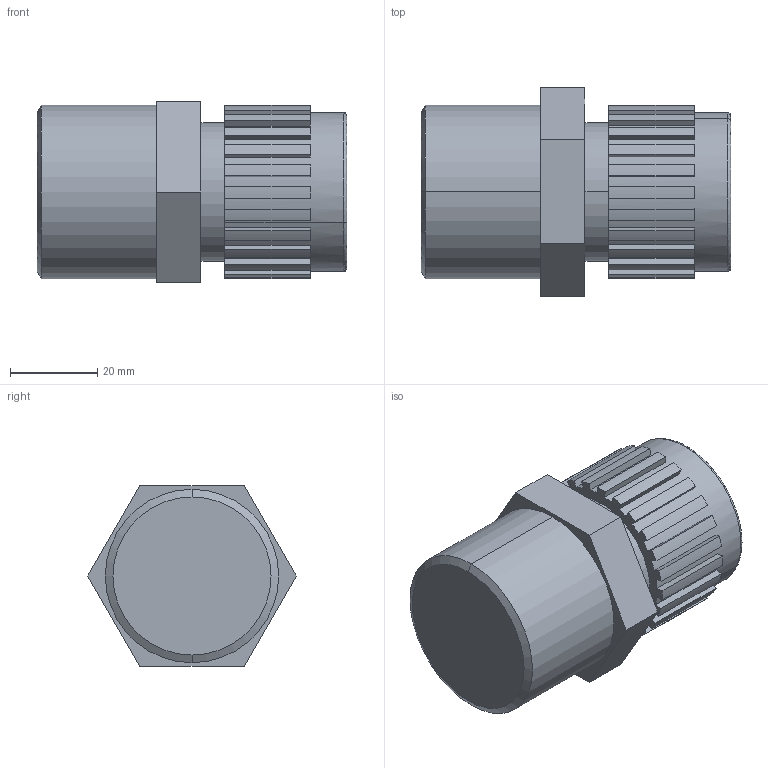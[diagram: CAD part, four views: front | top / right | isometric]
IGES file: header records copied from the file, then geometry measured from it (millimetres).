
Start section: SolidWorks IGES file using analytic representation for surfaces
Global section: file name: S:\Product Visuals\Defeatured Models and Parts Library\Parts Library IGES & STEP\Liquid Fittings\Front Mount liquid Fittings\Pillar S-300\60LPM\Fitting Pillar 08.IGS; native system: SolidWorks 2012; preprocessor: SolidWorks 2012; author: rachel.dressel; date: 120926.102248; units: inch
Bounding box: 70.84 x 47.66 x 41.27 mm (x, y, z)
Volume: 81322.6 mm3; surface area: 14310.8 mm2
Topology: 1 solids, 1 shells, 122 faces, 342 edges, 226 vertices
Faces by surface type: plane 84, revolution 38
